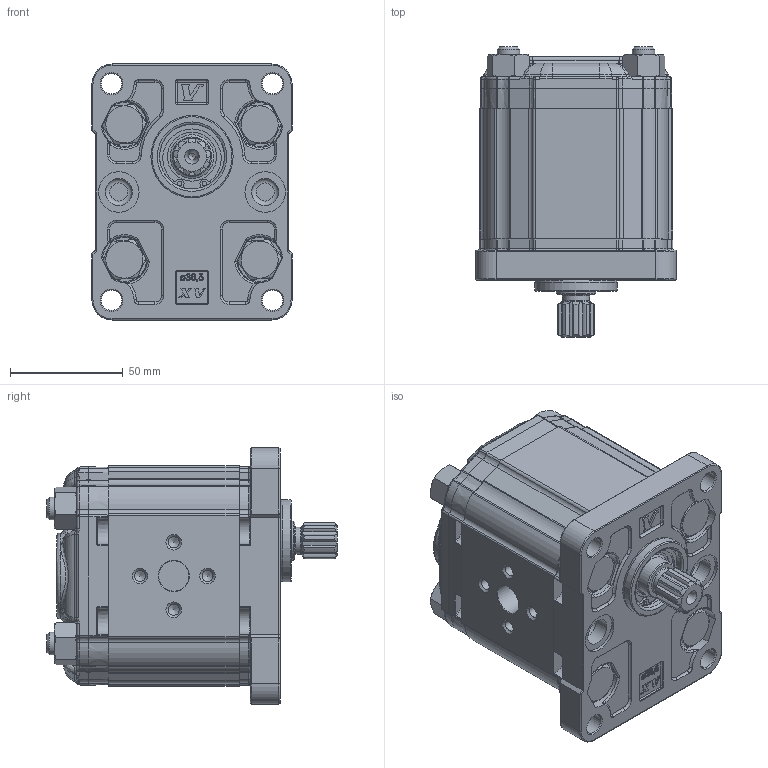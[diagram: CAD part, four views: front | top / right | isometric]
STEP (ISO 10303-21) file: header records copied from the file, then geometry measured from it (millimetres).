
FILE_DESCRIPTION(/* description */ ('Unknown'),/* implementation_level */ '2;1');
FILE_NAME(/* name */ 'X2P4701HOOA',/* time_stamp */ '2021-07-16T12:54:24+02:00',/* author */ ('Unknown'),/* organization */ ('Unknown'),/* preprocessor_version */ 'ST-DEVELOPER v16.7',/* originating_system */ 'Solid Edge',/* authorisation */ 'Unknown');
FILE_SCHEMA (('AUTOMOTIVE_DESIGN {1 0 10303 214 3 1 1}'));
Products named in the file (5): X2P4701HOOA; X2P01; 2H; X2OOH58; XP201-A
Assembly tree (4 placements, depth 2):
  X2P4701HOOA
    X2P01
    2H
    X2OOH58
    XP201-A
Bounding box: 89 x 128.8 x 113.7 mm (x, y, z)
Volume: 722062.1 mm3; surface area: 113983.4 mm2
Topology: 4 solids, 5 shells, 2061 faces, 5090 edges, 3107 vertices
Faces by surface type: cylinder 639, plane 516, bspline 492, torus 249, cone 149, sphere 16
Full cylindrical faces by diameter (mm): 2 x2, 4.917 x4, 5 x4, 9 x4, 10 x8, 10.5 x4, 11.5 x4, 12 x3, 13.5 x2, 16 x4, 17.42 x1, 17.48 x2, 18 x2, 18.724 x1, 20.595 x1, 21.741 x1, 25.834 x1, 28.56 x1, 28.57 x1, 28.8 x1, 30.5 x1, 36.5 x1
Entity records: 86650 total; most frequent: CARTESIAN_POINT 28367, ORIENTED_EDGE 9708, DIRECTION 8109, EDGE_CURVE 4854, AXIS2_PLACEMENT_3D 3126, VERTEX_POINT 3044, FACE_BOUND 2328, EDGE_LOOP 2318
